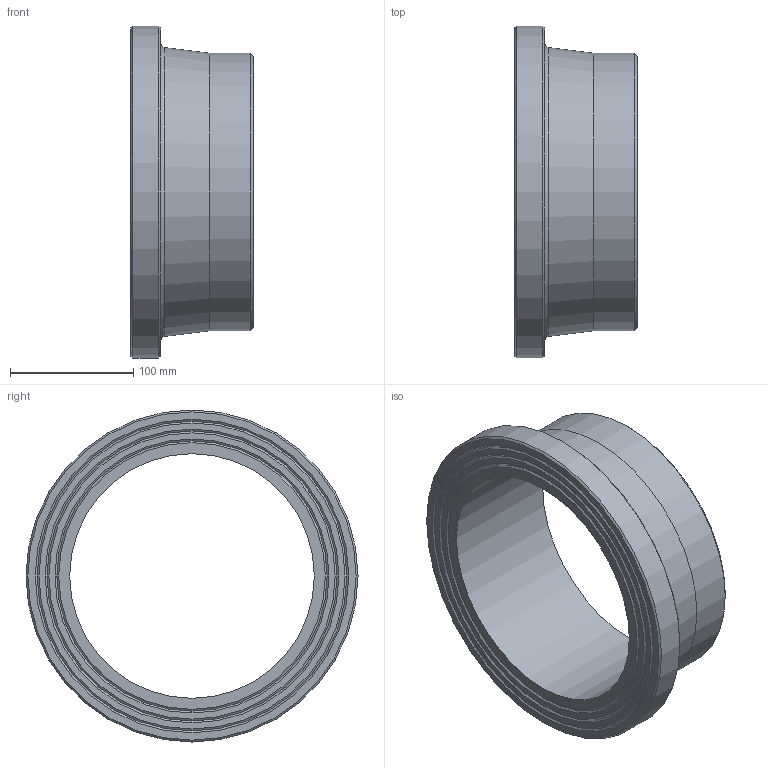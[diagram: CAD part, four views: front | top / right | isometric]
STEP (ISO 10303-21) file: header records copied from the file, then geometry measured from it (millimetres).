
FILE_DESCRIPTION(/* description */ ('Unknown'),/* implementation_level */ '2;1');
FILE_NAME(/* name */ 'CCP225B',/* time_stamp */ '2022-04-04T16:49:39+02:00',/* author */ ('Unknown'),/* organization */ ('Unknown'),/* preprocessor_version */ 'ST-DEVELOPER v18.1',/* originating_system */ 'Solid Edge',/* authorisation */ 'Unknown');
FILE_SCHEMA (('AUTOMOTIVE_DESIGN {1 0 10303 214 3 1 1}'));
Length unit declared in the file: millimetre
Products named in the file (1): CCP225B
Bounding box: 99 x 269 x 269 mm (x, y, z)
Volume: 1357473.2 mm3; surface area: 182263.5 mm2
Topology: 1 solids, 1 shells, 20 faces, 35 edges, 21 vertices
Faces by surface type: cone 10, plane 6, cylinder 3, torus 1
Full cylindrical faces by diameter (mm): 198.2 x1, 225 x1, 269 x1
Entity records: 438 total; most frequent: DIRECTION 82, CARTESIAN_POINT 61, AXIS2_PLACEMENT_3D 41, ORIENTED_EDGE 40, EDGE_LOOP 40, FACE_BOUND 40, EDGE_CURVE 20, VERTEX_POINT 20
